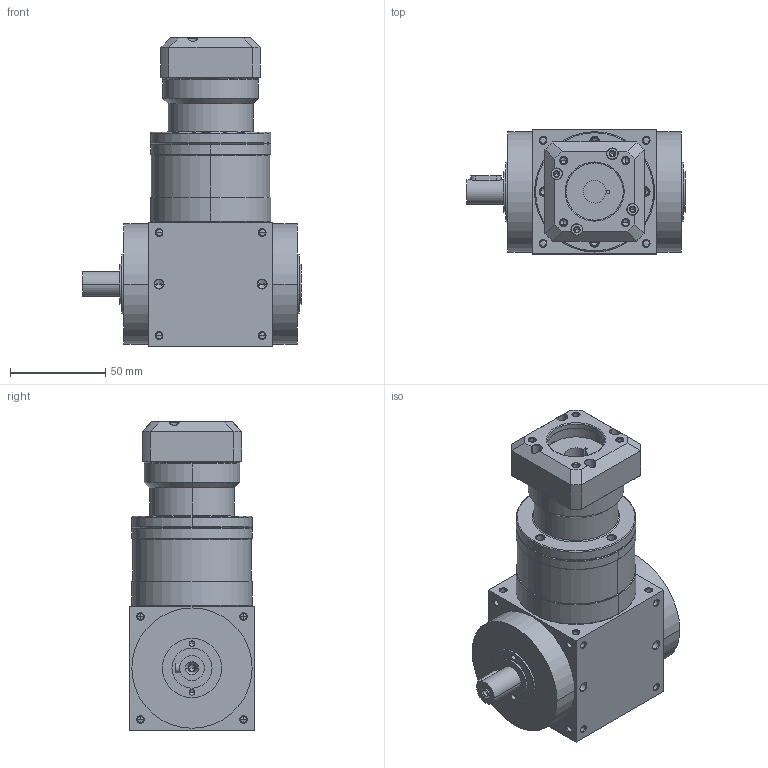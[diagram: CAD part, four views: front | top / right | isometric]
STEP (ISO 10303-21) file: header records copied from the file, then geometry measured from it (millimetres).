
FILE_DESCRIPTION((''),'2;1');
FILE_NAME('ATB065FL12-P0405100202_ASM','2014-07-29T',('d01707'),(''),'PRO/ENGINEER BY PARAMETRIC TECHNOLOGY CORPORATION, 2008410','PRO/ENGINEER BY PARAMETRIC TECHNOLOGY CORPORATION, 2008410','');
FILE_SCHEMA(('CONFIG_CONTROL_DESIGN'));
Length unit declared in the file: millimetre
Products named in the file (5): ATBFL1-HOUSING-2-2; P1820200001; P0226200001; P0405100202; ATB065FL12-P0405100202_ASM
Assembly tree (4 placements, depth 2):
  ATB065FL12-P0405100202_ASM
    ATBFL1-HOUSING-2-2
    P1820200001
    P0226200001
    P0405100202
Bounding box: 114.5 x 65 x 161.5 mm (x, y, z)
Volume: 563410.5 mm3; surface area: 95315.6 mm2
Topology: 4 solids, 41 shells, 744 faces, 1821 edges, 1075 vertices
Faces by surface type: cylinder 332, cone 262, plane 102, torus 44, bspline 4
Entity records: 22245 total; most frequent: CARTESIAN_POINT 4699, DIRECTION 3959, ORIENTED_EDGE 3314, EDGE_CURVE 1731, AXIS2_PLACEMENT_3D 1657, VERTEX_POINT 1075, CIRCLE 900, EDGE_LOOP 888
